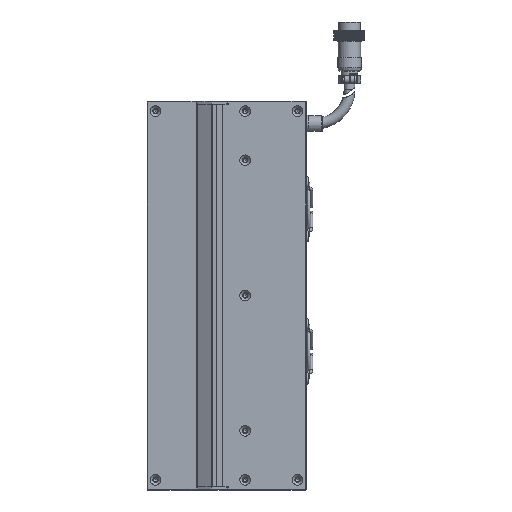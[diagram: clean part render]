
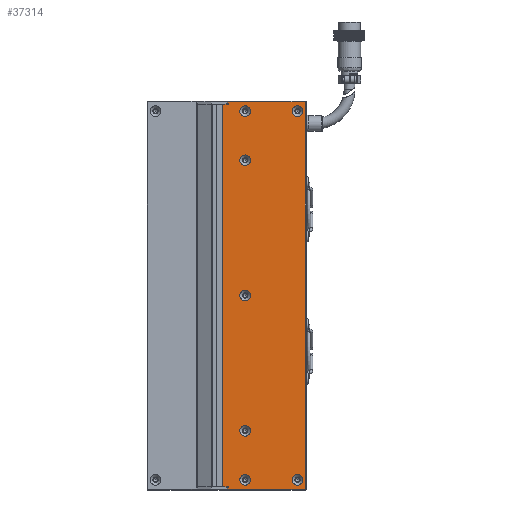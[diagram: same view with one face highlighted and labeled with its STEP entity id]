
A CAD part, left-side view. The second image highlights one B-rep face of the part: STEP entity #37314.
In plain terms, the highlighted planar face has unit normal (-1, 0, 0).
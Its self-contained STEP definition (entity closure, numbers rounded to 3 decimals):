
#746 = CARTESIAN_POINT ( 'NONE',  ( -24.998, -36.5, -105.85 ) ) ;
#1155 = EDGE_CURVE ( 'NONE', #24154, #89855, #1679, .T. ) ;
#1679 = LINE ( 'NONE', #43110, #62521 ) ;
#2372 = LINE ( 'NONE', #91696, #87417 ) ;
#6319 = FACE_BOUND ( 'NONE', #34342, .T. ) ;
#6349 = CARTESIAN_POINT ( 'NONE',  ( -24.998, -26.5, -106. ) ) ;
#7119 = EDGE_CURVE ( 'NONE', #79655, #79655, #107256, .T. ) ;
#8043 = VERTEX_POINT ( 'NONE', #62794 ) ;
#8642 = VERTEX_POINT ( 'NONE', #112489 ) ;
#9541 = DIRECTION ( 'NONE',  ( 0., -1., 0. ) ) ;
#11326 = VECTOR ( 'NONE', #106773, 1000. ) ;
#14455 = EDGE_CURVE ( 'NONE', #8642, #24154, #120128, .T. ) ;
#15800 = CIRCLE ( 'NONE', #18311, 3.15 ) ;
#16232 = VECTOR ( 'NONE', #65725, 1000. ) ;
#18311 = AXIS2_PLACEMENT_3D ( 'NONE', #115555, #56486, #86264 ) ;
#18537 = CARTESIAN_POINT ( 'NONE',  ( -24.998, -72.5, 114.5 ) ) ;
#19957 = ORIENTED_EDGE ( 'NONE', *, *, #105543, .F. ) ;
#22410 = CARTESIAN_POINT ( 'NONE',  ( -24.998, -26.5, 113. ) ) ;
#23019 = FACE_BOUND ( 'NONE', #108833, .T. ) ;
#23174 = VERTEX_POINT ( 'NONE', #31378 ) ;
#24154 = VERTEX_POINT ( 'NONE', #100030 ) ;
#25098 = CARTESIAN_POINT ( 'NONE',  ( -24.998, -36.5, 3.15 ) ) ;
#26192 = VERTEX_POINT ( 'NONE', #746 ) ;
#26952 = CARTESIAN_POINT ( 'NONE',  ( -24.998, -72.5, -113. ) ) ;
#27748 = VERTEX_POINT ( 'NONE', #115407 ) ;
#28090 = CIRCLE ( 'NONE', #55652, 3.15 ) ;
#29663 = CARTESIAN_POINT ( 'NONE',  ( -24.998, -67.5, 112.15 ) ) ;
#29999 = DIRECTION ( 'NONE',  ( -1., 0., 0. ) ) ;
#30026 = LINE ( 'NONE', #103752, #86149 ) ;
#30070 = DIRECTION ( 'NONE',  ( 1., 0., 0. ) ) ;
#30386 = EDGE_CURVE ( 'NONE', #93565, #51631, #30026, .T. ) ;
#30942 = EDGE_CURVE ( 'NONE', #8043, #118405, #55639, .T. ) ;
#31378 = CARTESIAN_POINT ( 'NONE',  ( -24.998, -36.5, 83.15 ) ) ;
#32503 = DIRECTION ( 'NONE',  ( 0., 0., 1. ) ) ;
#34342 = EDGE_LOOP ( 'NONE', ( #102884 ) ) ;
#37314 = ADVANCED_FACE ( 'NONE', ( #23019, #91400, #103718, #97490, #74773, #65478, #6319, #106586 ), #86947, .F. ) ;
#38317 = VECTOR ( 'NONE', #9541, 1000. ) ;
#38745 = ORIENTED_EDGE ( 'NONE', *, *, #118831, .T. ) ;
#41782 = AXIS2_PLACEMENT_3D ( 'NONE', #64755, #105086, #114838 ) ;
#43110 = CARTESIAN_POINT ( 'NONE',  ( -24.998, -26.5, 106. ) ) ;
#43510 = CARTESIAN_POINT ( 'NONE',  ( -24.998, -72., -114.5 ) ) ;
#43558 = EDGE_CURVE ( 'NONE', #93565, #8043, #100671, .T. ) ;
#44728 = DIRECTION ( 'NONE',  ( 0., 0., 1. ) ) ;
#45529 = CARTESIAN_POINT ( 'NONE',  ( -24.998, -36.5, 0. ) ) ;
#46147 = ORIENTED_EDGE ( 'NONE', *, *, #30386, .F. ) ;
#47058 = ORIENTED_EDGE ( 'NONE', *, *, #71246, .T. ) ;
#47581 = DIRECTION ( 'NONE',  ( 0., 0., 1. ) ) ;
#49538 = CARTESIAN_POINT ( 'NONE',  ( -24.998, -36.5, 112.15 ) ) ;
#51631 = VERTEX_POINT ( 'NONE', #119034 ) ;
#53514 = ORIENTED_EDGE ( 'NONE', *, *, #1155, .T. ) ;
#55249 = DIRECTION ( 'NONE',  ( 0., 0., 1. ) ) ;
#55337 = CIRCLE ( 'NONE', #41782, 3.15 ) ;
#55639 = LINE ( 'NONE', #6349, #16232 ) ;
#55652 = AXIS2_PLACEMENT_3D ( 'NONE', #109053, #119195, #99326 ) ;
#56486 = DIRECTION ( 'NONE',  ( -1., 0., 0. ) ) ;
#56507 = CARTESIAN_POINT ( 'NONE',  ( -24.998, -72., 113. ) ) ;
#58403 = ORIENTED_EDGE ( 'NONE', *, *, #77965, .F. ) ;
#59233 = CARTESIAN_POINT ( 'NONE',  ( -24.998, -36.5, 109. ) ) ;
#60221 = CIRCLE ( 'NONE', #99126, 3.15 ) ;
#60301 = ORIENTED_EDGE ( 'NONE', *, *, #102514, .F. ) ;
#61763 = DIRECTION ( 'NONE',  ( -1., 0., 0. ) ) ;
#62059 = VERTEX_POINT ( 'NONE', #43510 ) ;
#62521 = VECTOR ( 'NONE', #71516, 1000. ) ;
#62794 = CARTESIAN_POINT ( 'NONE',  ( -24.998, -26.5, -113. ) ) ;
#64417 = LINE ( 'NONE', #125348, #11326 ) ;
#64755 = CARTESIAN_POINT ( 'NONE',  ( -24.998, -67.5, -109. ) ) ;
#65478 = FACE_BOUND ( 'NONE', #102376, .T. ) ;
#65725 = DIRECTION ( 'NONE',  ( 0., 0., -1. ) ) ;
#67356 = DIRECTION ( 'NONE',  ( 0., 1., 0. ) ) ;
#68671 = VERTEX_POINT ( 'NONE', #87817 ) ;
#70645 = CARTESIAN_POINT ( 'NONE',  ( -24.998, -36.5, -80. ) ) ;
#71246 = EDGE_CURVE ( 'NONE', #62059, #8642, #123533, .T. ) ;
#71516 = DIRECTION ( 'NONE',  ( 0., 0., -1. ) ) ;
#73489 = ORIENTED_EDGE ( 'NONE', *, *, #102362, .F. ) ;
#74773 = FACE_BOUND ( 'NONE', #98439, .T. ) ;
#77067 = DIRECTION ( 'NONE',  ( 0., 0., 1. ) ) ;
#77965 = EDGE_CURVE ( 'NONE', #27748, #27748, #60221, .T. ) ;
#79655 = VERTEX_POINT ( 'NONE', #25098 ) ;
#81109 = CARTESIAN_POINT ( 'NONE',  ( -24.998, -36.5, 80. ) ) ;
#81335 = CARTESIAN_POINT ( 'NONE',  ( -24.998, -23.25, -113. ) ) ;
#81898 = ORIENTED_EDGE ( 'NONE', *, *, #104224, .F. ) ;
#82721 = ORIENTED_EDGE ( 'NONE', *, *, #30942, .T. ) ;
#83620 = VECTOR ( 'NONE', #67356, 1000. ) ;
#83971 = VERTEX_POINT ( 'NONE', #49538 ) ;
#85237 = EDGE_LOOP ( 'NONE', ( #115711, #82721, #38745, #47058, #93231, #53514, #60301, #46147 ) ) ;
#86149 = VECTOR ( 'NONE', #55249, 1000. ) ;
#86226 = AXIS2_PLACEMENT_3D ( 'NONE', #81109, #118466, #101938 ) ;
#86264 = DIRECTION ( 'NONE',  ( 0., 0., 1. ) ) ;
#86947 = PLANE ( 'NONE',  #107462 ) ;
#86970 = VERTEX_POINT ( 'NONE', #29663 ) ;
#87417 = VECTOR ( 'NONE', #109965, 1000. ) ;
#87817 = CARTESIAN_POINT ( 'NONE',  ( -24.998, -67.5, -105.85 ) ) ;
#89855 = VERTEX_POINT ( 'NONE', #22410 ) ;
#90575 = EDGE_LOOP ( 'NONE', ( #19957 ) ) ;
#91400 = FACE_BOUND ( 'NONE', #112554, .T. ) ;
#91696 = CARTESIAN_POINT ( 'NONE',  ( -24.998, -72.5, -114.5 ) ) ;
#93157 = AXIS2_PLACEMENT_3D ( 'NONE', #45529, #122800, #44728 ) ;
#93231 = ORIENTED_EDGE ( 'NONE', *, *, #14455, .T. ) ;
#93565 = VERTEX_POINT ( 'NONE', #81335 ) ;
#95143 = EDGE_LOOP ( 'NONE', ( #81898 ) ) ;
#96609 = EDGE_CURVE ( 'NONE', #23174, #23174, #109147, .T. ) ;
#97232 = AXIS2_PLACEMENT_3D ( 'NONE', #59233, #29999, #77067 ) ;
#97490 = FACE_BOUND ( 'NONE', #90575, .T. ) ;
#97656 = ORIENTED_EDGE ( 'NONE', *, *, #7119, .F. ) ;
#98439 = EDGE_LOOP ( 'NONE', ( #58403 ) ) ;
#99126 = AXIS2_PLACEMENT_3D ( 'NONE', #70645, #61763, #32503 ) ;
#99326 = DIRECTION ( 'NONE',  ( 0., 0., 1. ) ) ;
#100030 = CARTESIAN_POINT ( 'NONE',  ( -24.998, -26.5, 114.5 ) ) ;
#100671 = LINE ( 'NONE', #26952, #38317 ) ;
#101155 = CIRCLE ( 'NONE', #97232, 3.15 ) ;
#101938 = DIRECTION ( 'NONE',  ( 0., 0., 1. ) ) ;
#102362 = EDGE_CURVE ( 'NONE', #68671, #68671, #55337, .T. ) ;
#102376 = EDGE_LOOP ( 'NONE', ( #97656 ) ) ;
#102514 = EDGE_CURVE ( 'NONE', #51631, #89855, #64417, .T. ) ;
#102884 = ORIENTED_EDGE ( 'NONE', *, *, #96609, .F. ) ;
#103286 = CARTESIAN_POINT ( 'NONE',  ( -24.998, -26.5, -114.5 ) ) ;
#103718 = FACE_BOUND ( 'NONE', #95143, .T. ) ;
#103752 = CARTESIAN_POINT ( 'NONE',  ( -24.998, -23.25, -113. ) ) ;
#103864 = EDGE_CURVE ( 'NONE', #26192, #26192, #28090, .T. ) ;
#104224 = EDGE_CURVE ( 'NONE', #83971, #83971, #101155, .T. ) ;
#105086 = DIRECTION ( 'NONE',  ( -1., 0., 0. ) ) ;
#105543 = EDGE_CURVE ( 'NONE', #86970, #86970, #15800, .T. ) ;
#106078 = DIRECTION ( 'NONE',  ( 0., 0., -1. ) ) ;
#106586 = FACE_OUTER_BOUND ( 'NONE', #85237, .T. ) ;
#106773 = DIRECTION ( 'NONE',  ( 0., -1., 0. ) ) ;
#107256 = CIRCLE ( 'NONE', #93157, 3.15 ) ;
#107348 = CARTESIAN_POINT ( 'NONE',  ( -24.998, -72.5, 113. ) ) ;
#107462 = AXIS2_PLACEMENT_3D ( 'NONE', #107348, #30070, #106078 ) ;
#108833 = EDGE_LOOP ( 'NONE', ( #73489 ) ) ;
#109053 = CARTESIAN_POINT ( 'NONE',  ( -24.998, -36.5, -109. ) ) ;
#109147 = CIRCLE ( 'NONE', #86226, 3.15 ) ;
#109965 = DIRECTION ( 'NONE',  ( 0., -1., 0. ) ) ;
#112489 = CARTESIAN_POINT ( 'NONE',  ( -24.998, -72., 114.5 ) ) ;
#112554 = EDGE_LOOP ( 'NONE', ( #114900 ) ) ;
#114838 = DIRECTION ( 'NONE',  ( 0., 0., 1. ) ) ;
#114900 = ORIENTED_EDGE ( 'NONE', *, *, #103864, .F. ) ;
#115407 = CARTESIAN_POINT ( 'NONE',  ( -24.998, -36.5, -76.85 ) ) ;
#115555 = CARTESIAN_POINT ( 'NONE',  ( -24.998, -67.5, 109. ) ) ;
#115711 = ORIENTED_EDGE ( 'NONE', *, *, #43558, .T. ) ;
#118405 = VERTEX_POINT ( 'NONE', #103286 ) ;
#118466 = DIRECTION ( 'NONE',  ( -1., 0., 0. ) ) ;
#118831 = EDGE_CURVE ( 'NONE', #118405, #62059, #2372, .T. ) ;
#118971 = VECTOR ( 'NONE', #47581, 1000. ) ;
#119034 = CARTESIAN_POINT ( 'NONE',  ( -24.998, -23.25, 113. ) ) ;
#119195 = DIRECTION ( 'NONE',  ( -1., 0., 0. ) ) ;
#120128 = LINE ( 'NONE', #18537, #83620 ) ;
#122800 = DIRECTION ( 'NONE',  ( -1., 0., 0. ) ) ;
#123533 = LINE ( 'NONE', #56507, #118971 ) ;
#125348 = CARTESIAN_POINT ( 'NONE',  ( -24.998, -72.5, 113. ) ) ;
